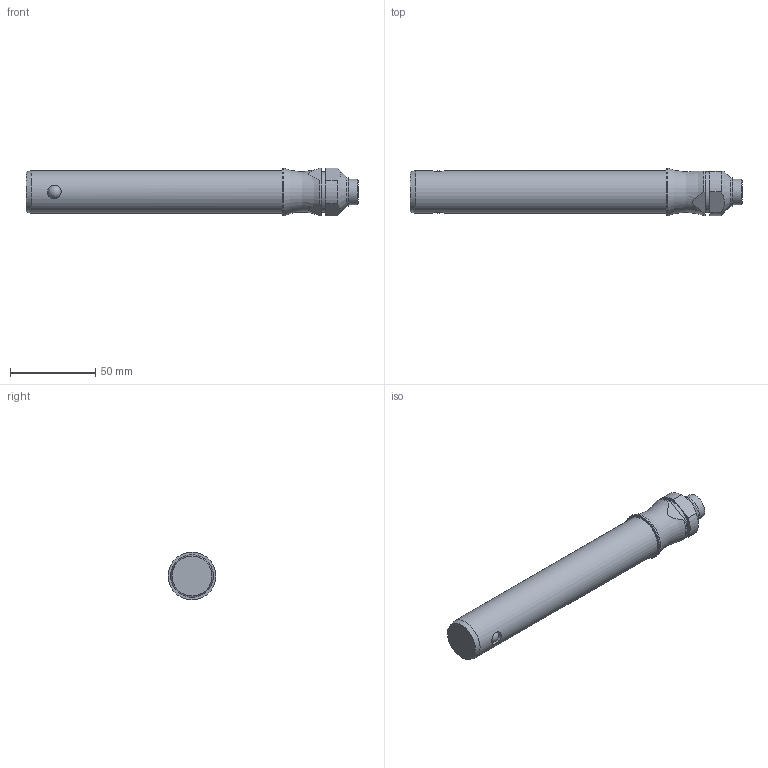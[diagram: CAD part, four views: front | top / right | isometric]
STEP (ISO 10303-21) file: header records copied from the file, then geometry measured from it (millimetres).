
FILE_DESCRIPTION( ( 'STEP AP203' ), '1' );
FILE_NAME( 'C:/Temp/Ganter_Step_05_03_2020/data/3_1/gn113_3/Stainless Steel-Ball lock pin GN 113.3-25-130 (activated).stp', '2020-03-12T08:19:13', ( 'License CC BY-ND 4.0' ), ( 'CADENAS' ), ' ', 'PARTsolutions', ' ' );
FILE_SCHEMA( ( 'CONFIG_CONTROL_DESIGN' ) );
Length unit declared in the file: millimetre
Products named in the file (1): _Stainless Steel-Ball lock pin GN 113.3-25-130 (activated)
Bounding box: 195.05 x 28 x 28 mm (x, y, z)
Volume: 93478.5 mm3; surface area: 16564.2 mm2
Topology: 1 solids, 1 shells, 31 faces, 74 edges, 46 vertices
Faces by surface type: cylinder 13, plane 11, cone 4, sphere 2, torus 1
Full cylindrical faces by diameter (mm): 8 x2, 15 x1, 17 x1, 24 x1, 25 x1, 28 x1
Entity records: 1046 total; most frequent: CARTESIAN_POINT 382, DIRECTION 134, ORIENTED_EDGE 104, AXIS2_PLACEMENT_3D 58, EDGE_CURVE 52, EDGE_LOOP 48, VERTEX_POINT 40, FACE_OUTER_BOUND 39
